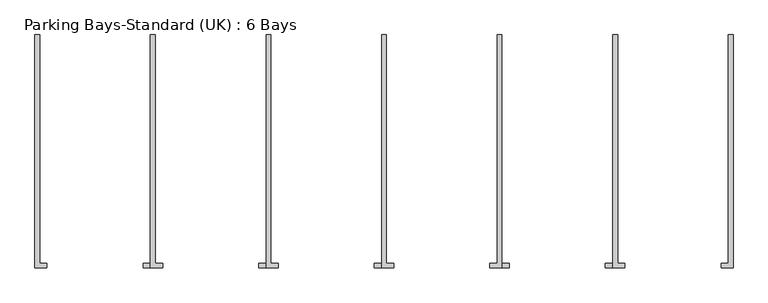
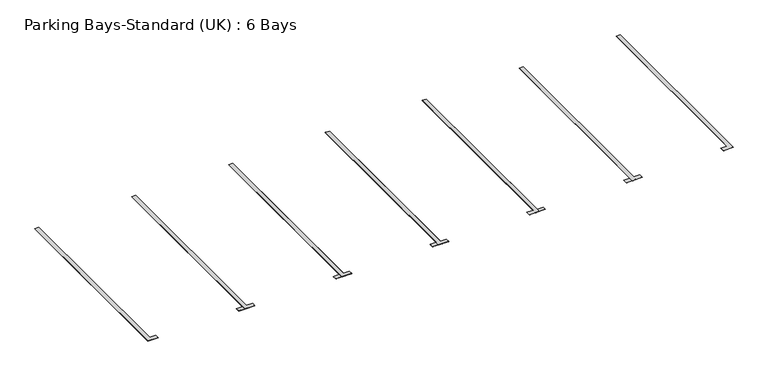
"""IFC4 building model written with IfcOpenShell, lengths in millimetres: proxy geometry, Parking Bays-Standard (UK) : 6 Bays."""

from ifc_helpers import new_model, si_unit, origin, origin_with_axes, place, context, project, spatial, polyline, outline, extrude, source, transform, mapped, element, save


def parking_bays_standard_uk_6_bays_a1d699d5(model_context):
    return source(origin(), model_context, "Body", "SweptSolid", [
        extrude(outline(polyline([(14350.0, 0.0), (14450.0, 0.0), (14450.0, -4850.0), (14200.0, -4850.0), (14200.0, -4750.0), (14350.0, -4750.0), (14350.0, 0.0)])), origin_with_axes(), (0.0, 0.0, 1.0), 3.175),
        extrude(outline(polyline([(11950.0, 0.0), (12050.0, 0.0), (12050.0, -4750.0), (12200.0, -4750.0), (12200.0, -4850.0), (11950.0, -4850.0), (11950.0, 0.0)])), origin_with_axes(), (0.0, 0.0, 1.0), 3.175),
        extrude(outline(polyline([(9550.0, 0.0), (9650.0, 0.0), (9650.0, -4850.0), (9400.0, -4850.0), (9400.0, -4750.0), (9550.0, -4750.0), (9550.0, 0.0)])), origin_with_axes(), (0.0, 0.0, 1.0), 3.175),
        extrude(outline(polyline([(7150.0, 0.0), (7250.0, 0.0), (7250.0, -4750.0), (7400.0, -4750.0), (7400.0, -4850.0), (7150.0, -4850.0), (7150.0, 0.0)])), origin_with_axes(), (0.0, 0.0, 1.0), 3.175),
        extrude(outline(polyline([(7150.0, 0.0), (7250.0, 0.0), (7250.0, -4850.0), (7000.0, -4850.0), (7000.0, -4750.0), (7150.0, -4750.0), (7150.0, 0.0)])), origin_with_axes(), (0.0, 0.0, 1.0), 3.175),
        extrude(outline(polyline([(4750.0, 0.0), (4850.0, 0.0), (4850.0, -4750.0), (5000.0, -4750.0), (5000.0, -4850.0), (4750.0, -4850.0), (4750.0, 0.0)])), origin_with_axes(), (0.0, 0.0, 1.0), 3.175),
        extrude(outline(polyline([(4750.0, 0.0), (4850.0, 0.0), (4850.0, -4850.0), (4600.0, -4850.0), (4600.0, -4750.0), (4750.0, -4750.0), (4750.0, 0.0)])), origin_with_axes(), (0.0, 0.0, 1.0), 3.175),
        extrude(outline(polyline([(2350.0, 0.0), (2450.0, 0.0), (2450.0, -4750.0), (2600.0, -4750.0), (2600.0, -4850.0), (2350.0, -4850.0), (2350.0, 0.0)])), origin_with_axes(), (0.0, 0.0, 1.0), 3.175),
        extrude(outline(polyline([(11950.0, 0.0), (12050.0, 0.0), (12050.0, -4850.0), (11800.0, -4850.0), (11800.0, -4750.0), (11950.0, -4750.0), (11950.0, 0.0)])), origin_with_axes(), (0.0, 0.0, 1.0), 3.175),
        extrude(outline(polyline([(9550.0, 0.0), (9650.0, 0.0), (9650.0, -4750.0), (9800.0, -4750.0), (9800.0, -4850.0), (9550.0, -4850.0), (9550.0, 0.0)])), origin_with_axes(), (0.0, 0.0, 1.0), 3.175),
        extrude(outline(polyline([(2350.0, 0.0), (2450.0, 0.0), (2450.0, -4850.0), (2200.0, -4850.0), (2200.0, -4750.0), (2350.0, -4750.0), (2350.0, 0.0)])), origin_with_axes(), (0.0, 0.0, 1.0), 3.175),
        extrude(outline(polyline([(-50.0, 0.0), (50.0, 0.0), (50.0, -4750.0), (200.0, -4750.0), (200.0, -4850.0), (-50.0, -4850.0), (-50.0, 0.0)])), origin_with_axes(), (0.0, 0.0, 1.0), 3.175),
    ])


if __name__ == "__main__":
    model = new_model("IFC4")
    model_context = context("Model", 3, world=origin())
    ifc_project = project(units=[si_unit("LENGTHUNIT", "METRE", prefix="MILLI")], contexts=[model_context])
    site = spatial("IfcSite", under=ifc_project)
    building = spatial("IfcBuilding", under=site)
    placement = place(None, origin())
    parking_bays_standard_uk_6_bays_shape = parking_bays_standard_uk_6_bays_a1d699d5(model_context)
    element("IfcBuildingElementProxy", 1, Name="Parking Bays-Standard (UK) : 6 Bays", ObjectType="Parking Bays-Standard (UK) : 6 Bays", at=placement, inside=building, context=model_context, shape_type="MappedRepresentation", body=[
        mapped(parking_bays_standard_uk_6_bays_shape, transform((0.0, 0.0, 0.0), x_axis=(1.0, 0.0, 0.0), y_axis=(0.0, 1.0, 0.0), z_axis=(0.0, 0.0, 1.0))),
    ])
    save(model, "model.ifc")
